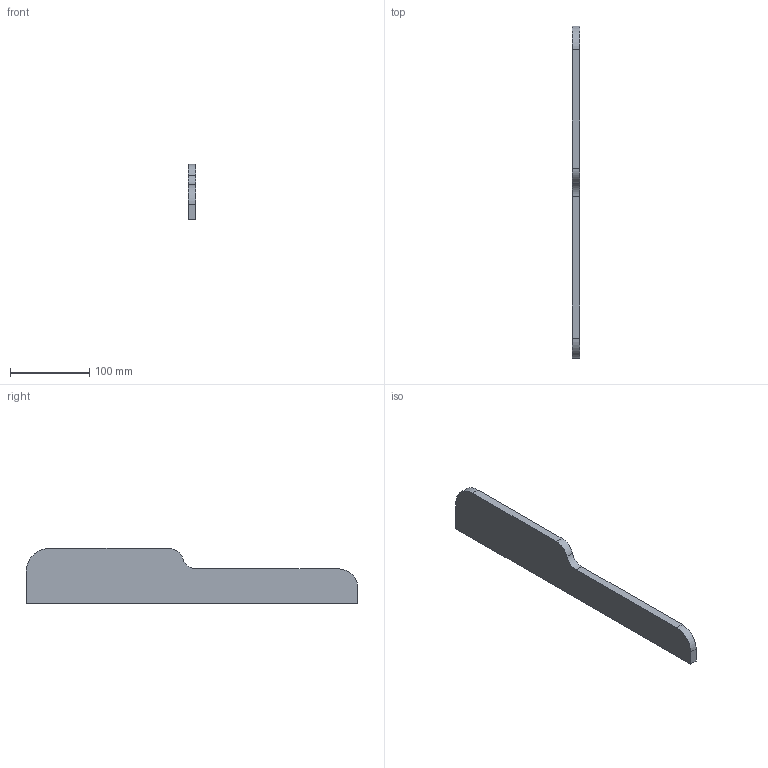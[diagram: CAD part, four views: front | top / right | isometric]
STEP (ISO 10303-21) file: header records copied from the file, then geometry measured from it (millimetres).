
FILE_DESCRIPTION(('CATIA V5 STEP Exchange'),'2;1');
FILE_NAME('E:\CNC\CNC_REV3_PLAN_FINAL\FICHIERS POUR USINAGE DES PIECES PORTIQUE\PIECES_AVEC_TROU\AXE_Y_RENFORCEMENT.stp','2016-09-06T20:12:24+00:00',('none'),('none'),'CATIA Version 5 Release 19 SP 2 (IN-10)','CATIA V5 STEP AP203','none');
FILE_SCHEMA(('CONFIG_CONTROL_DESIGN'));
Length unit declared in the file: millimetre
Products named in the file (1): Renforcement_Axe_X
Bounding box: 10 x 420 x 70 mm (x, y, z)
Volume: 233068 mm3; surface area: 56033 mm2
Topology: 1 solids, 1 shells, 11 faces, 27 edges, 18 vertices
Faces by surface type: plane 7, cylinder 4
Entity records: 363 total; most frequent: CARTESIAN_POINT 57, ORIENTED_EDGE 54, DIRECTION 49, EDGE_CURVE 27, AXIS2_PLACEMENT_3D 20, VECTOR 19, LINE 19, VERTEX_POINT 18
